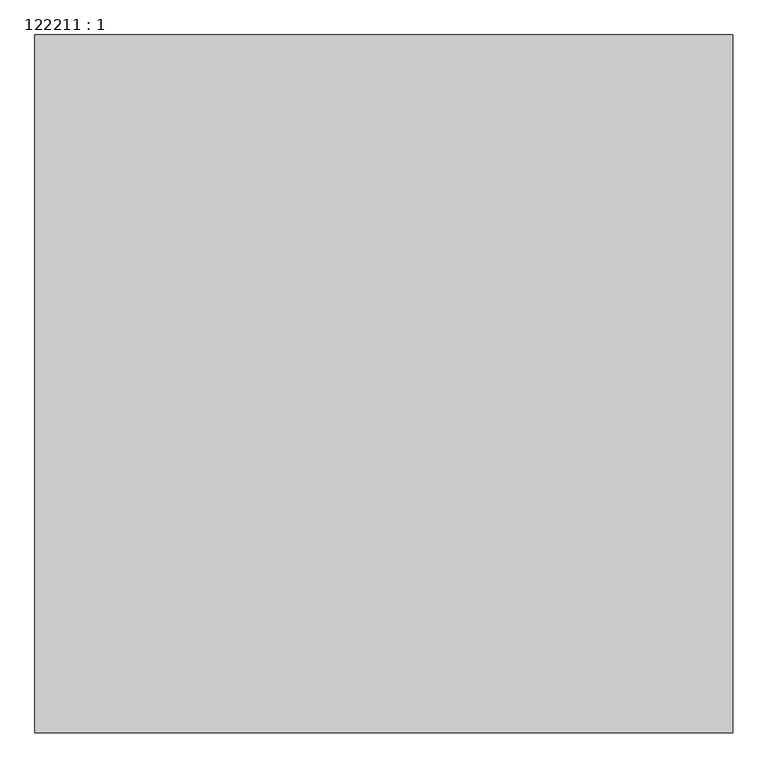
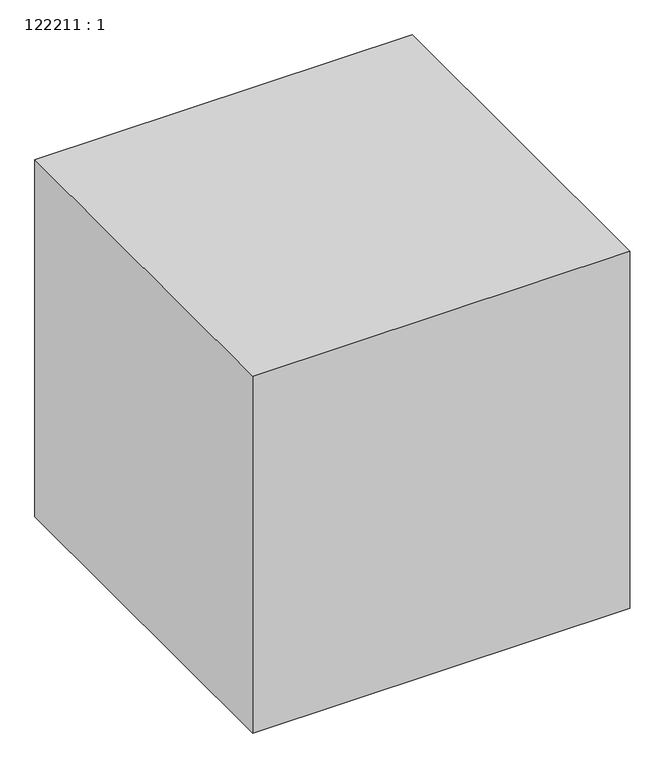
"""IFC4 building model written with IfcOpenShell, lengths in millimetres: proxy geometry, 122211 : 1."""

from ifc_helpers import new_model, si_unit, origin, origin_with_axes, place, context, project, spatial, polyline, outline, extrude, source, transform, mapped, element, save


def proxy_122211_1_c931f82f(model_context):
    return source(origin(), model_context, "Body", "SweptSolid", [
        extrude(outline(polyline([(-2307.9756708, 11335.2294472), (-2307.9756708, 10335.2294472), (-3307.9756708, 10335.2294472), (-3307.9756708, 11335.2294472), (-2307.9756708, 11335.2294472)])), origin_with_axes(), (0.0, 0.0, 1.0), 1000.0),
    ])


if __name__ == "__main__":
    model = new_model("IFC4")
    model_context = context("Model", 3, world=origin())
    ifc_project = project(units=[si_unit("LENGTHUNIT", "METRE", prefix="MILLI")], contexts=[model_context])
    site = spatial("IfcSite", under=ifc_project)
    building = spatial("IfcBuilding", under=site)
    placement = place(None, origin())
    proxy_122211_1_shape = proxy_122211_1_c931f82f(model_context)
    element("IfcBuildingElementProxy", 1, Name="122211 : 1", ObjectType="122211 : 1", at=placement, inside=building, context=model_context, shape_type="MappedRepresentation", body=[
        mapped(proxy_122211_1_shape, transform((0.0, 0.0, 0.0), x_axis=(1.0, 0.0, 0.0), y_axis=(0.0, 1.0, 0.0), z_axis=(0.0, 0.0, 1.0))),
    ])
    save(model, "model.ifc")
